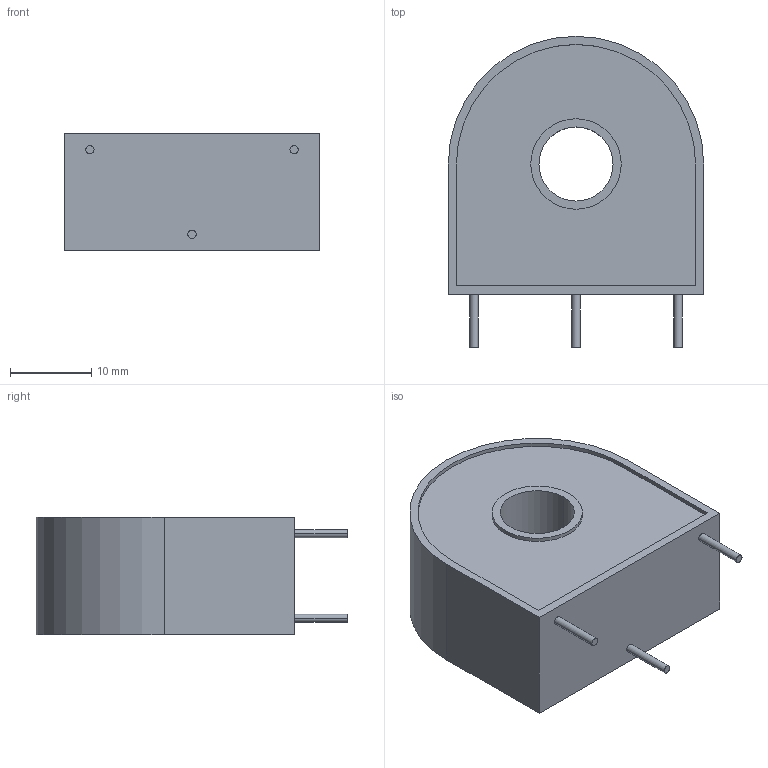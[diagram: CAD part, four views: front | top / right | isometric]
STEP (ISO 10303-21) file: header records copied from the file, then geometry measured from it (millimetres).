
FILE_DESCRIPTION (( 'STEP AP203' ), '1' );
FILE_NAME ('CT-1603-ST.STEP', '2020-08-06T20:36:12', ( '' ), ( '' ), 'SwSTEP 2.0', 'SolidWorks 2015', '' );
FILE_SCHEMA (( 'CONFIG_CONTROL_DESIGN' ));
Length unit declared in the file: millimetre
Products named in the file (1): CT-1603-ST
Bounding box: 31.35 x 38.2 x 14.4 mm (x, y, z)
Volume: 11531 mm3; surface area: 3811.7 mm2
Topology: 1 solids, 1 shells, 25 faces, 54 edges, 36 vertices
Faces by surface type: plane 13, cylinder 12
Entity records: 773 total; most frequent: DIRECTION 130, CARTESIAN_POINT 116, ORIENTED_EDGE 108, EDGE_CURVE 54, AXIS2_PLACEMENT_3D 50, VERTEX_POINT 36, EDGE_LOOP 32, VECTOR 30
